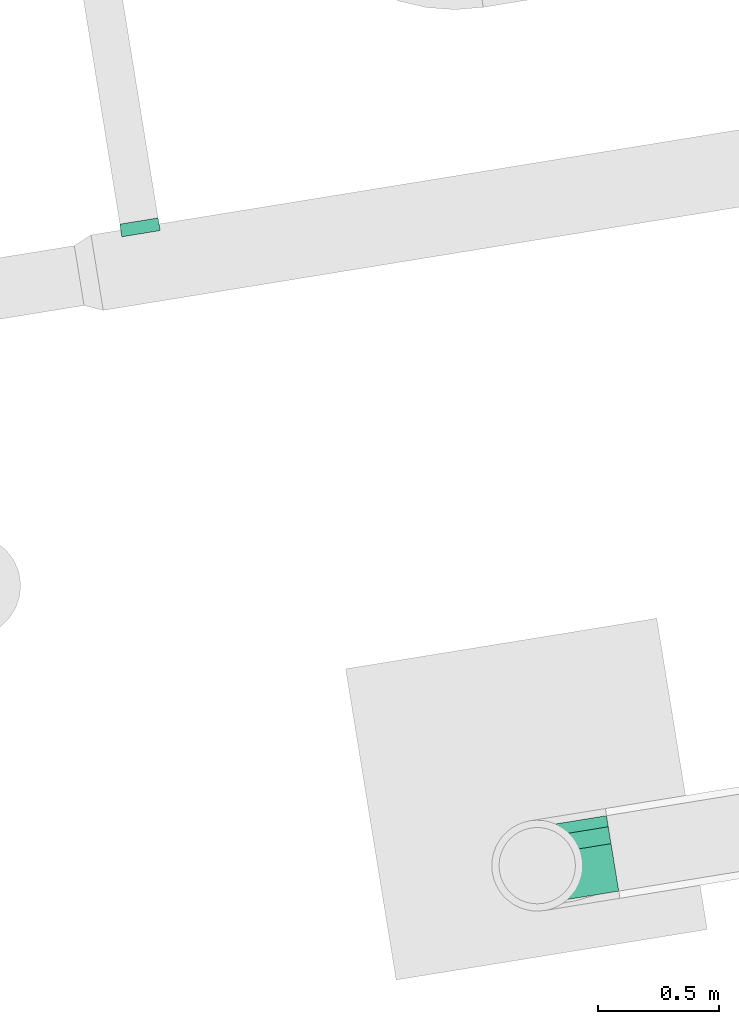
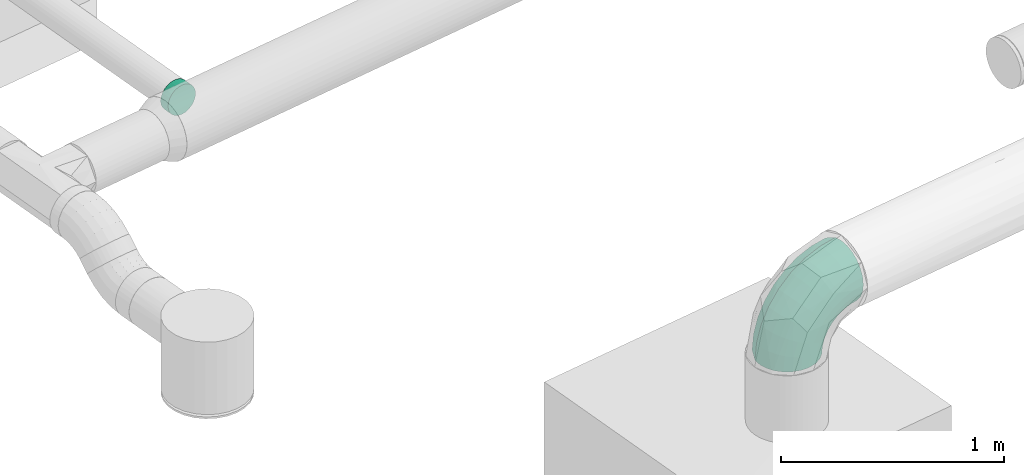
# One storey, part 28 of 39: 2 flow fittings.
"""IFC2X3 building model written with IfcOpenShell, lengths in millimetres."""

from ifc_helpers import new_model, entity, si_unit, converted_unit, derived_unit, direction, frame, origin, origin_with_axes, place, context, subcontext, project, spatial, faceted_brep, source, transform, mapped, material, type_object, element, save


model = new_model("IFC2X3")

# Units and contexts
model_context = context("Model", 3, precision=0.01, world=origin(), true_north=direction((6.12323399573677e-17, 1.0)))
plan_context = context("Plan", 3, precision=1e-05, world=origin_with_axes())
body_context = subcontext(model_context, "Body", "Model", "MODEL_VIEW")
ifc_project = project(units=[converted_unit("PLANEANGLEUNIT", "DEGREE", entity("IfcPositiveLengthMeasure", 0.0174532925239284), si_unit("PLANEANGLEUNIT", "RADIAN"), dimensions=[0, 0, 0, 0, 0, 0, 0]), si_unit("AREAUNIT", "SQUARE_METRE"), si_unit("LENGTHUNIT", "METRE", prefix="MILLI"), si_unit("MASSUNIT", "GRAM", prefix="KILO"), si_unit("POWERUNIT", "WATT"), si_unit("PRESSUREUNIT", "PASCAL", prefix="KILO"), si_unit("FORCEUNIT", "NEWTON", prefix="KILO"), si_unit("ELECTRICVOLTAGEUNIT", "VOLT"), si_unit("ELECTRICCURRENTUNIT", "AMPERE"), si_unit("THERMODYNAMICTEMPERATUREUNIT", "DEGREE_CELSIUS"), si_unit("TIMEUNIT", "SECOND"), si_unit("VOLUMEUNIT", "CUBIC_METRE"), derived_unit("LINEARVELOCITYUNIT", [(si_unit("LENGTHUNIT", "METRE"), 1), (si_unit("TIMEUNIT", "SECOND"), -1)]), derived_unit("VOLUMETRICFLOWRATEUNIT", [(si_unit("VOLUMEUNIT", "CUBIC_METRE"), 1), (si_unit("TIMEUNIT", "SECOND"), -1)]), derived_unit("THERMALTRANSMITTANCEUNIT", [(si_unit("POWERUNIT", "WATT"), 1), (si_unit("THERMODYNAMICTEMPERATUREUNIT", "KELVIN"), -1), (si_unit("AREAUNIT", "SQUARE_METRE"), -1)]), derived_unit("SOUNDPRESSUREUNIT", [(si_unit("PRESSUREUNIT", "PASCAL"), 1)])], contexts=[model_context, plan_context])

# Site, building, storey
site_placement = place(None, frame((-0.00071070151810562, 0.00438415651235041, 0.0), z_axis=(0.0, 0.0, 1.0), x_axis=(-0.160236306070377, 0.987078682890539, 0.0)))
site = spatial("IfcSite", under=ifc_project, at=site_placement, Name="Default", CompositionType="ELEMENT")
building_placement = place(site_placement, origin_with_axes())
building = spatial("IfcBuilding", under=site, at=building_placement, CompositionType="ELEMENT")
storey_placement = place(building_placement, frame((0.0, 0.0, 50999.9999999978), z_axis=(0.0, 0.0, 1.0), x_axis=(1.0, 0.0, 0.0)))
storey = spatial("IfcBuildingStorey", under=building, at=storey_placement, Name="Nivå D", CompositionType="ELEMENT", Elevation=50999.9999999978)

# Flow fittings
ifc_material = material(Name="<Unnamed>")
duct_fitting_type_1 = type_object("IfcDuctFittingType", Name="magicirc_elbow_full_radius_1:magicirc_elbow_full_radius_001", PredefinedType="NOTDEFINED", material=ifc_material)
shared_shape_1 = source(origin(), body_context, "Body", "Brep", [
    faceted_brep([(-222.819822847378, -148.421044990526, 0.0), (-223.866810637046, -143.157481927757, 40.7639996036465), (-315.0, -152.133317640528, 40.7639996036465), (-315.0, -157.5, 0.0), (-226.936423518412, -127.725495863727, 78.7499999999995), (-315.0, -136.399001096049, 78.7499999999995), (-231.819472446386, -103.176751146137, 111.369318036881), (-315.0, -111.369318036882, 111.369318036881), (-238.183185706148, -71.1842041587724, 136.399001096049), (-315.0, -78.7500000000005, 136.399001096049), (-245.593886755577, -33.9280941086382, 152.133317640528), (-315.0, -40.7639996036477, 152.133317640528), (-253.546548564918, 6.0526366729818, 157.5), (-315.0, 0.0, 157.5), (-261.499210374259, 46.033367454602, 152.133317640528), (-315.0, 40.7639996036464, 152.133317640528), (-268.909911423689, 83.2894775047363, 136.399001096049), (-315.0, 78.7499999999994, 136.399001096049), (-275.27362468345, 115.282024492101, 111.369318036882), (-315.0, 111.369318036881, 111.369318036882), (-283.226286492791, 155.262755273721, 40.7639996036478), (-315.0, 152.133317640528, 40.7639996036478), (-284.273274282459, 160.526318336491, 0.0), (-315.0, 157.5, 0.0), (-283.226286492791, 155.262755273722, -40.763999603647), (-315.0, 152.133317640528, -40.763999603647), (-280.156673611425, 139.830769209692, -78.7499999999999), (-315.0, 136.399001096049, -78.7499999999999), (-275.27362468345, 115.282024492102, -111.369318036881), (-315.0, 111.369318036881, -111.369318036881), (-268.909911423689, 83.289477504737, -136.399001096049), (-315.0, 78.7500000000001, -136.399001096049), (-261.499210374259, 46.0333674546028, -152.133317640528), (-315.0, 40.7639996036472, -152.133317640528), (-253.546548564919, 6.05263667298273, -157.5), (-315.0, 0.0, -157.5), (-245.593886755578, -33.9280941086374, -152.133317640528), (-315.0, -40.7639996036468, -152.133317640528), (-238.183185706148, -71.1842041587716, -136.399001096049), (-315.0, -78.7499999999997, -136.399001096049), (-231.819472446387, -103.176751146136, -111.369318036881), (-315.0, -111.369318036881, -111.369318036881), (-223.866810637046, -143.157481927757, -40.7639996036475), (-315.0, -152.133317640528, -40.7639996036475), (-134.182078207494, -121.533079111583, 0.0), (-136.235818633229, -116.574911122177, 40.7639996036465), (-142.25708089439, -102.03829810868, 78.7499999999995), (-151.835525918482, -78.91388622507, 111.369318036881), (-164.318398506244, -48.7775659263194, 136.399001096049), (-178.855011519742, -13.6830776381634, 152.133317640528), (-194.454718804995, 23.9779472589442, 157.5), (-210.054426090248, 61.638972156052, 152.133317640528), (-224.591039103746, 96.7334604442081, 136.399001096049), (-237.073911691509, 126.869780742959, 111.369318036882), (-252.673618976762, 164.530805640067, 40.7639996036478), (-254.727359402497, 169.488973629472, 0.0), (-252.673618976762, 164.530805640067, -40.763999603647), (-246.652356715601, 149.994192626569, -78.7499999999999), (-237.073911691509, 126.86978074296, -111.369318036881), (-224.591039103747, 96.7334604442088, -136.399001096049), (-210.054426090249, 61.6389721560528, -152.133317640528), (-194.454718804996, 23.9779472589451, -157.5), (-178.855011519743, -13.6830776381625, -152.133317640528), (-164.318398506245, -48.7775659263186, -136.399001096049), (-151.835525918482, -78.9138862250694, -111.369318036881), (-136.23581863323, -116.574911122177, -40.7639996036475), (-52.4930648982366, -77.8693918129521, 0.0), (-55.4746338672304, -73.4071585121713, 40.7639996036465), (-64.2161517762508, -60.3245524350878, 78.7499999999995), (-78.1218986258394, -39.5131315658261, 111.369318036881), (-96.24422074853, -12.3911598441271, 136.399001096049), (-117.348111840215, 19.1930451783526, 152.133317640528), (-139.995376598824, 53.087072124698, 157.5), (-162.642641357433, 86.9810990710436, 152.133317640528), (-183.746532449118, 118.565304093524, 136.399001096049), (-201.868854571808, 145.687275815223, 111.369318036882), (-224.516119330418, 179.581302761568, 40.7639996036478), (-227.497688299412, 184.043536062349, 0.0), (-224.516119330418, 179.581302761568, -40.763999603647), (-215.774601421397, 166.498696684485, -78.7499999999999), (-201.868854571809, 145.687275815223, -111.369318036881), (-183.746532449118, 118.565304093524, -136.399001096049), (-162.642641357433, 86.9810990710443, -152.133317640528), (-139.995376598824, 53.0870721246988, -157.5), (-117.348111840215, 19.1930451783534, -152.133317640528), (-96.2442207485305, -12.3911598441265, -136.399001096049), (-78.1218986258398, -39.5131315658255, -111.369318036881), (-55.4746338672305, -73.4071585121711, -40.7639996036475), (19.1079541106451, -19.107954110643, 0.0), (15.3131366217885, -15.3131366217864, 40.7639996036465), (4.18729469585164, -4.18729469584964, 78.7499999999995), (-13.5113639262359, 13.5113639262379, 111.369318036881), (-36.5767049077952, 36.5767049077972, 136.399001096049), (-63.4368633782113, 63.4368633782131, 152.133317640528), (-92.2613639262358, 92.2613639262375, 157.5), (-121.085864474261, 121.085864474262, 152.133317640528), (-147.946022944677, 147.946022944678, 136.399001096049), (-171.011363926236, 171.011363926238, 111.369318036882), (-199.835864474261, 199.835864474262, 40.7639996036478), (-203.630681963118, 203.630681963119, 0.0), (-199.835864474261, 199.835864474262, -40.763999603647), (-188.710022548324, 188.710022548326, -78.7499999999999), (-171.011363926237, 171.011363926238, -111.369318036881), (-147.946022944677, 147.946022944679, -136.399001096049), (-121.085864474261, 121.085864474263, -152.133317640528), (-92.2613639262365, 92.2613639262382, -157.5), (-63.436863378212, 63.4368633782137, -152.133317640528), (-36.5767049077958, 36.5767049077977, -136.399001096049), (-13.5113639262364, 13.5113639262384, -111.369318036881), (15.3131366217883, -15.3131366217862, -40.7639996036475), (77.8693918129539, 52.4930648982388, 0.0), (73.4071585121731, 55.4746338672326, 40.7639996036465), (60.3245524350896, 64.216151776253, 78.7499999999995), (39.5131315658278, 78.1218986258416, 111.369318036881), (12.3911598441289, 96.2442207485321, 136.399001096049), (-19.1930451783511, 117.348111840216, 152.133317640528), (-53.0870721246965, 139.995376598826, 157.5), (-86.9810990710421, 162.642641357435, 152.133317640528), (-118.565304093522, 183.746532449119, 136.399001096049), (-145.687275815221, 201.86885457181, 111.369318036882), (-179.581302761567, 224.516119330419, 40.7639996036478), (-184.043536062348, 227.497688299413, 0.0), (-179.581302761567, 224.516119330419, -40.763999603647), (-166.498696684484, 215.774601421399, -78.7499999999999), (-145.687275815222, 201.86885457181, -111.369318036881), (-118.565304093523, 183.74653244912, -136.399001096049), (-86.9810990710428, 162.642641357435, -152.133317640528), (-53.0870721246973, 139.995376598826, -157.5), (-19.1930451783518, 117.348111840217, -152.133317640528), (12.3911598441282, 96.2442207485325, -136.399001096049), (39.5131315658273, 78.1218986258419, -111.369318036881), (73.4071585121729, 55.4746338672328, -40.7639996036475), (121.533079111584, 134.182078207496, 0.0), (116.574911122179, 136.235818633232, 40.7639996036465), (102.038298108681, 142.257080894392, 78.7499999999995), (78.9138862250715, 151.835525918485, 111.369318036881), (48.7775659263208, 164.318398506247, 136.399001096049), (13.6830776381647, 178.855011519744, 152.133317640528), (-23.9779472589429, 194.454718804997, 157.5), (-61.6389721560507, 210.05442609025, 152.133317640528), (-96.7334604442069, 224.591039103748, 136.399001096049), (-126.869780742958, 237.07391169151, 111.369318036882), (-164.530805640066, 252.673618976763, 40.7639996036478), (-169.488973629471, 254.727359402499, 0.0), (-164.530805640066, 252.673618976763, -40.763999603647), (-149.994192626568, 246.652356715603, -78.7499999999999), (-126.869780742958, 237.07391169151, -111.369318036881), (-96.7334604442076, 224.591039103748, -136.399001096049), (-61.6389721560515, 210.05442609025, -152.133317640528), (-23.9779472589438, 194.454718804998, -157.5), (13.6830776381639, 178.855011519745, -152.133317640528), (48.7775659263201, 164.318398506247, -136.399001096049), (78.9138862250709, 151.835525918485, -111.369318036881), (116.574911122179, 136.235818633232, -40.7639996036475), (148.421044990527, 222.81982284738, 0.0), (143.157481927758, 223.866810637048, 40.7639996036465), (127.725495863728, 226.936423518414, 78.7499999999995), (103.176751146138, 231.819472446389, 111.369318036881), (71.1842041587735, 238.18318570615, 136.399001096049), (33.9280941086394, 245.59388675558, 152.133317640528), (-6.05263667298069, 253.54654856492, 157.5), (-46.0333674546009, 261.499210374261, 152.133317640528), (-83.2894775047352, 268.90991142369, 136.399001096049), (-115.2820244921, 275.273624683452, 111.369318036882), (-155.26275527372, 283.226286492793, 40.7639996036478), (-160.52631833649, 284.27327428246, 0.0), (-155.262755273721, 283.226286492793, -40.763999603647), (-139.83076920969, 280.156673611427, -78.7499999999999), (-115.282024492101, 275.273624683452, -111.369318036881), (-83.2894775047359, 268.90991142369, -136.399001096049), (-46.0333674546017, 261.499210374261, -152.133317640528), (-6.05263667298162, 253.54654856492, -157.5), (33.9280941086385, 245.59388675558, -152.133317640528), (71.1842041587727, 238.183185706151, -136.399001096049), (103.176751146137, 231.819472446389, -111.369318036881), (143.157481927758, 223.866810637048, -40.7639996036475), (157.500000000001, 315.0, 0.0), (152.133317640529, 315.0, 40.7639996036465), (136.39900109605, 315.0, 78.7499999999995), (111.369318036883, 315.0, 111.369318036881), (78.7500000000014, 315.0, 136.399001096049), (40.7639996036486, 315.0, 152.133317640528), (0.0, 315.0, 157.5), (-40.7639996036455, 315.0, 152.133317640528), (-78.7499999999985, 315.0, 136.399001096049), (-111.36931803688, 315.0, 111.369318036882), (-152.133317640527, 315.0, 40.7639996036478), (-157.499999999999, 315.0, 0.0), (-152.133317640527, 315.0, -40.763999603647), (-136.399001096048, 315.0, -78.7499999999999), (-111.36931803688, 315.0, -111.369318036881), (-78.7499999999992, 315.0, -136.399001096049), (-40.7639996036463, 315.0, -152.133317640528), (0.0, 315.0, -157.5), (40.7639996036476, 315.0, -152.133317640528), (78.7500000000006, 315.0, -136.399001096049), (111.369318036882, 315.0, -111.369318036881), (152.133317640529, 315.0, -40.7639996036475)], [[[0, 1, 2, 3]], [[1, 4, 5, 2]], [[4, 6, 7, 5]], [[6, 8, 9, 7]], [[8, 10, 11, 9]], [[10, 12, 13, 11]], [[12, 14, 15, 13]], [[14, 16, 17, 15]], [[16, 18, 19, 17]], [[18, 20, 21, 19]], [[20, 22, 23, 21]], [[22, 24, 25, 23]], [[24, 26, 27, 25]], [[26, 28, 29, 27]], [[28, 30, 31, 29]], [[30, 32, 33, 31]], [[32, 34, 35, 33]], [[34, 36, 37, 35]], [[36, 38, 39, 37]], [[38, 40, 41, 39]], [[40, 42, 43, 41]], [[42, 0, 3, 43]], [[44, 45, 1, 0]], [[45, 46, 4, 1]], [[46, 47, 6, 4]], [[47, 48, 8, 6]], [[48, 49, 10, 8]], [[49, 50, 12, 10]], [[50, 51, 14, 12]], [[51, 52, 16, 14]], [[52, 53, 18, 16]], [[53, 54, 20, 18]], [[54, 55, 22, 20]], [[55, 56, 24, 22]], [[56, 57, 26, 24]], [[57, 58, 28, 26]], [[58, 59, 30, 28]], [[59, 60, 32, 30]], [[60, 61, 34, 32]], [[61, 62, 36, 34]], [[62, 63, 38, 36]], [[63, 64, 40, 38]], [[64, 65, 42, 40]], [[65, 44, 0, 42]], [[66, 67, 45, 44]], [[67, 68, 46, 45]], [[68, 69, 47, 46]], [[69, 70, 48, 47]], [[70, 71, 49, 48]], [[71, 72, 50, 49]], [[72, 73, 51, 50]], [[73, 74, 52, 51]], [[74, 75, 53, 52]], [[75, 76, 54, 53]], [[76, 77, 55, 54]], [[77, 78, 56, 55]], [[78, 79, 57, 56]], [[79, 80, 58, 57]], [[80, 81, 59, 58]], [[81, 82, 60, 59]], [[82, 83, 61, 60]], [[83, 84, 62, 61]], [[84, 85, 63, 62]], [[85, 86, 64, 63]], [[86, 87, 65, 64]], [[87, 66, 44, 65]], [[88, 89, 67, 66]], [[89, 90, 68, 67]], [[90, 91, 69, 68]], [[91, 92, 70, 69]], [[92, 93, 71, 70]], [[93, 94, 72, 71]], [[94, 95, 73, 72]], [[95, 96, 74, 73]], [[96, 97, 75, 74]], [[97, 98, 76, 75]], [[98, 99, 77, 76]], [[99, 100, 78, 77]], [[100, 101, 79, 78]], [[101, 102, 80, 79]], [[102, 103, 81, 80]], [[103, 104, 82, 81]], [[104, 105, 83, 82]], [[105, 106, 84, 83]], [[106, 107, 85, 84]], [[107, 108, 86, 85]], [[108, 109, 87, 86]], [[109, 88, 66, 87]], [[110, 111, 89, 88]], [[111, 112, 90, 89]], [[112, 113, 91, 90]], [[113, 114, 92, 91]], [[114, 115, 93, 92]], [[115, 116, 94, 93]], [[116, 117, 95, 94]], [[117, 118, 96, 95]], [[118, 119, 97, 96]], [[119, 120, 98, 97]], [[120, 121, 99, 98]], [[121, 122, 100, 99]], [[122, 123, 101, 100]], [[123, 124, 102, 101]], [[124, 125, 103, 102]], [[125, 126, 104, 103]], [[126, 127, 105, 104]], [[127, 128, 106, 105]], [[128, 129, 107, 106]], [[129, 130, 108, 107]], [[130, 131, 109, 108]], [[131, 110, 88, 109]], [[132, 133, 111, 110]], [[133, 134, 112, 111]], [[134, 135, 113, 112]], [[135, 136, 114, 113]], [[136, 137, 115, 114]], [[137, 138, 116, 115]], [[138, 139, 117, 116]], [[139, 140, 118, 117]], [[140, 141, 119, 118]], [[141, 142, 120, 119]], [[142, 143, 121, 120]], [[143, 144, 122, 121]], [[144, 145, 123, 122]], [[145, 146, 124, 123]], [[146, 147, 125, 124]], [[147, 148, 126, 125]], [[148, 149, 127, 126]], [[149, 150, 128, 127]], [[150, 151, 129, 128]], [[151, 152, 130, 129]], [[152, 153, 131, 130]], [[153, 132, 110, 131]], [[154, 155, 133, 132]], [[155, 156, 134, 133]], [[156, 157, 135, 134]], [[157, 158, 136, 135]], [[158, 159, 137, 136]], [[159, 160, 138, 137]], [[160, 161, 139, 138]], [[161, 162, 140, 139]], [[162, 163, 141, 140]], [[163, 164, 142, 141]], [[164, 165, 143, 142]], [[165, 166, 144, 143]], [[166, 167, 145, 144]], [[167, 168, 146, 145]], [[168, 169, 147, 146]], [[169, 170, 148, 147]], [[170, 171, 149, 148]], [[171, 172, 150, 149]], [[172, 173, 151, 150]], [[173, 174, 152, 151]], [[174, 175, 153, 152]], [[175, 154, 132, 153]], [[176, 177, 155, 154]], [[177, 178, 156, 155]], [[178, 179, 157, 156]], [[179, 180, 158, 157]], [[180, 181, 159, 158]], [[181, 182, 160, 159]], [[182, 183, 161, 160]], [[183, 184, 162, 161]], [[184, 185, 163, 162]], [[185, 186, 164, 163]], [[186, 187, 165, 164]], [[187, 188, 166, 165]], [[188, 189, 167, 166]], [[189, 190, 168, 167]], [[190, 191, 169, 168]], [[191, 192, 170, 169]], [[192, 193, 171, 170]], [[193, 194, 172, 171]], [[194, 195, 173, 172]], [[195, 196, 174, 173]], [[196, 197, 175, 174]], [[197, 176, 154, 175]], [[3, 2, 5, 7, 9, 11, 13, 15, 17, 19, 21, 23, 25, 27, 29, 31, 33, 35, 37, 39, 41, 43]], [[197, 196, 195, 194, 193, 192, 191, 190, 189, 188, 187, 186, 185, 184, 183, 182, 181, 180, 179, 178, 177, 176]]]),
])
flow_fitting_1_placement = place(storey_placement, frame((769234.832653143, -595189.746741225, 3250.0), z_axis=(-1.0, 0.0, 0.0), x_axis=(0.0, 1.0, 0.0)))
element("IfcFlowFitting", 1, at=flow_fitting_1_placement, inside=storey, type_object=duct_fitting_type_1, material=ifc_material, Name="magicirc_elbow_full_radius_1:magicirc_elbow_full_radius_001", ObjectType="magicirc_elbow_full_radius_1:magicirc_elbow_full_radius_001", context=body_context, shape_type="MappedRepresentation", body=[
    mapped(shared_shape_1, transform((0.0, 0.0, 0.0), scale=1.0)),
])
duct_fitting_type_2 = type_object("IfcDuctFittingType", Name="magicirc_tapoutlet_1:magicirc_tapoutlet_001", PredefinedType="NOTDEFINED", material=ifc_material)
shared_shape_2 = source(origin(), body_context, "Body", "Brep", [
    faceted_brep([(-27.9263644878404, -80.0, 0.0), (-27.9263644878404, -77.2740661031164, 20.7055236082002), (-27.9263644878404, -69.282032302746, 40.0), (-27.9263644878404, -56.5685424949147, 56.568542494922), (-27.9263644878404, -40.0, 69.2820323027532), (-27.9263644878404, -20.7055236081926, 77.2740661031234), (-27.9263644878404, 0.0, 80.0), (-27.9263644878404, 20.7055236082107, 77.2740661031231), (-27.9263644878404, 40.0, 69.2820323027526), (-27.9263644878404, 56.5685424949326, 56.5685424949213), (-27.9263644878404, 69.2820323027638, 40.0), (-27.9263644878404, 77.274066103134, 20.705523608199), (-27.9263644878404, 80.0, 0.0), (-27.9263644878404, 77.2740661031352, -20.7055236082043), (-27.9263644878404, 69.2820323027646, -40.0), (-27.9263644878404, 56.5685424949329, -56.5685424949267), (-27.9263644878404, 40.0, -69.2820323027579), (-27.9263644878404, 20.7055236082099, -77.274066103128), (-27.9263644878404, 0.0, -80.0), (-27.9263644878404, -20.7055236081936, -77.2740661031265), (-27.9263644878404, -40.0, -69.2820323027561), (-27.9263644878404, -56.5685424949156, -56.5685424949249), (-27.9263644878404, -69.2820323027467, -40.0), (-27.9263644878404, -77.2740661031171, -20.7055236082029), (0.0, -20.7055236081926, 77.2740661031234), (25.0, -20.7055236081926, 77.2740661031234), (25.0, 0.0, 80.0), (0.0, 0.0, 80.0), (0.0, -40.0, 69.2820323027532), (25.0, -40.0, 69.2820323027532), (0.0, -56.5685424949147, 56.568542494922), (25.0, -56.5685424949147, 56.568542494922), (0.0, -77.2740661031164, 20.7055236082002), (25.0, -77.2740661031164, 20.7055236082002), (25.0, -69.282032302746, 40.0), (0.0, -69.282032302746, 40.0), (0.0, -80.0, 0.0), (25.0, -80.0, 0.0), (0.0, -77.2740661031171, -20.7055236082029), (25.0, -77.2740661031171, -20.7055236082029), (0.0, -69.2820323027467, -40.0), (25.0, -69.2820323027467, -40.0), (0.0, -56.5685424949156, -56.5685424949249), (25.0, -56.5685424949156, -56.5685424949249), (0.0, 0.0, -80.0), (25.0, 0.0, -80.0), (25.0, -20.7055236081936, -77.2740661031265), (0.0, -20.7055236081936, -77.2740661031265), (25.0, -40.0, -69.2820323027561), (0.0, -40.0, -69.2820323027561), (0.0, 20.7055236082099, -77.274066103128), (25.0, 20.7055236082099, -77.274066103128), (0.0, 40.0, -69.2820323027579), (25.0, 40.0, -69.2820323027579), (0.0, 56.5685424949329, -56.5685424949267), (25.0, 56.5685424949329, -56.5685424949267), (0.0, 77.2740661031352, -20.7055236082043), (25.0, 77.2740661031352, -20.7055236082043), (25.0, 69.2820323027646, -40.0), (0.0, 69.2820323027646, -40.0), (0.0, 80.0, 0.0), (25.0, 80.0, 0.0), (0.0, 77.274066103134, 20.705523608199), (25.0, 77.274066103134, 20.705523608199), (0.0, 69.2820323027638, 40.0), (25.0, 69.2820323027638, 40.0), (0.0, 56.5685424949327, 56.5685424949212), (25.0, 56.5685424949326, 56.5685424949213), (0.0, 20.7055236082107, 77.2740661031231), (25.0, 20.7055236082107, 77.2740661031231), (25.0, 40.0, 69.2820323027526), (0.0, 40.0, 69.2820323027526)], [[[0, 1, 2, 3, 4, 5, 6, 7, 8, 9, 10, 11, 12, 13, 14, 15, 16, 17, 18, 19, 20, 21, 22, 23]], [[24, 25, 26, 27, 6, 5]], [[28, 29, 25, 24, 5, 4]], [[3, 30, 31, 29, 28, 4]], [[32, 33, 34, 35, 2, 1]], [[36, 37, 33, 32, 1, 0]], [[2, 35, 34, 31, 30, 3]], [[38, 39, 37, 36, 0, 23]], [[40, 41, 39, 38, 23, 22]], [[21, 42, 43, 41, 40, 22]], [[18, 44, 45, 46, 47, 19]], [[20, 19, 47, 46, 48, 49]], [[20, 49, 48, 43, 42, 21]], [[50, 51, 45, 44, 18, 17]], [[52, 53, 51, 50, 17, 16]], [[15, 54, 55, 53, 52, 16]], [[56, 57, 58, 59, 14, 13]], [[60, 61, 57, 56, 13, 12]], [[14, 59, 58, 55, 54, 15]], [[62, 63, 61, 60, 12, 11]], [[64, 65, 63, 62, 11, 10]], [[9, 66, 67, 65, 64, 10]], [[68, 69, 70, 71, 8, 7]], [[27, 26, 69, 68, 7, 6]], [[8, 71, 70, 67, 66, 9]], [[45, 51, 53, 55, 58, 57, 61, 63, 65, 67, 70, 69, 26, 25, 29, 31, 34, 33, 37, 39, 41, 43, 48, 46]]]),
    faceted_brep([(25.0, 0.0, -80.0), (25.0, 20.70552360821, -77.274066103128), (25.0, 40.0, -69.2820323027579), (25.0, 56.568542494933, -56.5685424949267), (25.0, 69.2820323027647, -40.0), (25.0, 77.2740661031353, -20.7055236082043), (25.0, 80.0, 0.0), (25.0, 77.2740661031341, 20.705523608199), (25.0, 69.2820323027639, 40.0), (25.0, 56.5685424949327, 56.5685424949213), (25.0, 40.0, 69.2820323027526), (25.0, 20.7055236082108, 77.2740661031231), (25.0, 0.0, 80.0), (25.0, -20.7055236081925, 77.2740661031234), (25.0, -40.0, 69.2820323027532), (25.0, -56.5685424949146, 56.568542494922), (25.0, -69.2820323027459, 40.0), (25.0, -77.2740661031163, 20.7055236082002), (25.0, -80.0, 0.0), (25.0, -77.274066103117, -20.7055236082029), (25.0, -69.2820323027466, -40.0), (25.0, -56.5685424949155, -56.5685424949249), (25.0, -40.0, -69.2820323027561), (25.0, -20.7055236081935, -77.2740661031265), (0.0, 0.0, 80.0), (-27.9263644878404, 0.0, 80.0), (-27.9263644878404, -20.7055236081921, 77.2740661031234), (0.0, -20.7055236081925, 77.2740661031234), (-27.9263644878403, -40.0, 69.2820323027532), (0.0, -40.0, 69.2820323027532), (0.0, -56.5685424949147, 56.568542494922), (-27.9263644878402, -56.5685424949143, 56.568542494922), (0.0, -69.282032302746, 40.0), (-27.9263644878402, -69.2820323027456, 40.0), (-27.9263644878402, -77.274066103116, 20.7055236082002), (0.0, -77.2740661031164, 20.7055236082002), (-27.9263644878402, -80.0, 0.0), (0.0, -80.0, 0.0), (-27.9263644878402, -77.2740661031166, -20.7055236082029), (0.0, -77.274066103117, -20.7055236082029), (-27.9263644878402, -69.2820323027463, -40.0), (0.0, -69.2820323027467, -40.0), (0.0, -56.5685424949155, -56.5685424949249), (-27.9263644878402, -56.5685424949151, -56.5685424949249), (0.0, 0.0, -80.0), (0.0, -20.7055236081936, -77.2740661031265), (-27.9263644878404, -20.7055236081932, -77.2740661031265), (-27.9263644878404, 0.0, -80.0), (0.0, -40.0, -69.2820323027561), (-27.9263644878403, -40.0, -69.2820323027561), (-27.9263644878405, 20.7055236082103, -77.274066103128), (0.0, 20.7055236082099, -77.274066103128), (-27.9263644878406, 40.0, -69.2820323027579), (0.0, 40.0, -69.2820323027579), (0.0, 56.5685424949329, -56.5685424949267), (-27.9263644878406, 56.5685424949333, -56.5685424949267), (0.0, 69.2820323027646, -40.0), (-27.9263644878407, 69.282032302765, -40.0), (-27.9263644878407, 77.2740661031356, -20.7055236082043), (0.0, 77.2740661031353, -20.7055236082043), (-27.9263644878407, 80.0, 0.0), (0.0, 80.0, 0.0), (-27.9263644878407, 77.2740661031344, 20.705523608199), (0.0, 77.274066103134, 20.705523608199), (-27.9263644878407, 69.2820323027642, 40.0), (0.0, 69.2820323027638, 40.0), (0.0, 56.5685424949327, 56.5685424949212), (-27.9263644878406, 56.568542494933, 56.5685424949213), (0.0, 40.0, 69.2820323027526), (-27.9263644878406, 40.0, 69.2820323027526), (-27.9263644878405, 20.7055236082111, 77.2740661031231), (0.0, 20.7055236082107, 77.2740661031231)], [[[0, 1, 2, 3, 4, 5, 6, 7, 8, 9, 10, 11, 12, 13, 14, 15, 16, 17, 18, 19, 20, 21, 22, 23]], [[13, 12, 24, 25, 26, 27]], [[14, 13, 27, 26, 28, 29]], [[30, 15, 14, 29, 28, 31]], [[17, 16, 32, 33, 34, 35]], [[18, 17, 35, 34, 36, 37]], [[32, 16, 15, 30, 31, 33]], [[19, 18, 37, 36, 38, 39]], [[20, 19, 39, 38, 40, 41]], [[42, 21, 20, 41, 40, 43]], [[44, 0, 23, 45, 46, 47]], [[48, 49, 46, 45, 23, 22]], [[48, 22, 21, 42, 43, 49]], [[1, 0, 44, 47, 50, 51]], [[2, 1, 51, 50, 52, 53]], [[54, 3, 2, 53, 52, 55]], [[5, 4, 56, 57, 58, 59]], [[6, 5, 59, 58, 60, 61]], [[56, 4, 3, 54, 55, 57]], [[7, 6, 61, 60, 62, 63]], [[8, 7, 63, 62, 64, 65]], [[66, 9, 8, 65, 64, 67]], [[11, 10, 68, 69, 70, 71]], [[12, 11, 71, 70, 25, 24]], [[68, 10, 9, 66, 67, 69]], [[36, 34, 33, 31, 28, 26, 25, 70, 69, 67, 64, 62, 60, 58, 57, 55, 52, 50, 47, 46, 49, 43, 40, 38]]]),
    faceted_brep([(-27.9263644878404, -80.0, 0.0), (-27.9263644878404, -77.2740661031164, 20.7055236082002), (-27.9263644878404, -69.282032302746, 40.0), (-27.9263644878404, -56.5685424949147, 56.568542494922), (-27.9263644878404, -40.0, 69.2820323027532), (-27.9263644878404, -20.7055236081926, 77.2740661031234), (-27.9263644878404, 0.0, 80.0), (-27.9263644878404, 20.7055236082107, 77.2740661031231), (-27.9263644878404, 40.0, 69.2820323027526), (-27.9263644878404, 56.5685424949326, 56.5685424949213), (-27.9263644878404, 69.2820323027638, 40.0), (-27.9263644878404, 77.274066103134, 20.705523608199), (-27.9263644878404, 80.0, 0.0), (-27.9263644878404, 77.2740661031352, -20.7055236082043), (-27.9263644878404, 69.2820323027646, -40.0), (-27.9263644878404, 56.5685424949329, -56.5685424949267), (-27.9263644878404, 40.0, -69.2820323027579), (-27.9263644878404, 20.7055236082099, -77.274066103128), (-27.9263644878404, 0.0, -80.0), (-27.9263644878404, -20.7055236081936, -77.2740661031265), (-27.9263644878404, -40.0, -69.2820323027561), (-27.9263644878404, -56.5685424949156, -56.5685424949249), (-27.9263644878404, -69.2820323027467, -40.0), (-27.9263644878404, -77.2740661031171, -20.7055236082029), (0.0, -20.7055236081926, 77.2740661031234), (25.0, -20.7055236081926, 77.2740661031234), (25.0, 0.0, 80.0), (0.0, 0.0, 80.0), (0.0, -40.0, 69.2820323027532), (25.0, -40.0, 69.2820323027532), (0.0, -56.5685424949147, 56.568542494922), (25.0, -56.5685424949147, 56.568542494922), (0.0, -77.2740661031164, 20.7055236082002), (25.0, -77.2740661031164, 20.7055236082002), (25.0, -69.282032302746, 40.0), (0.0, -69.282032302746, 40.0), (0.0, -80.0, 0.0), (25.0, -80.0, 0.0), (0.0, -77.2740661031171, -20.7055236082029), (25.0, -77.2740661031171, -20.7055236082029), (0.0, -69.2820323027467, -40.0), (25.0, -69.2820323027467, -40.0), (0.0, -56.5685424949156, -56.5685424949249), (25.0, -56.5685424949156, -56.5685424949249), (0.0, 0.0, -80.0), (25.0, 0.0, -80.0), (25.0, -20.7055236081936, -77.2740661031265), (0.0, -20.7055236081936, -77.2740661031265), (25.0, -40.0, -69.2820323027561), (0.0, -40.0, -69.2820323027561), (0.0, 20.7055236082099, -77.274066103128), (25.0, 20.7055236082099, -77.274066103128), (0.0, 40.0, -69.2820323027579), (25.0, 40.0, -69.2820323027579), (0.0, 56.5685424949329, -56.5685424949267), (25.0, 56.5685424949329, -56.5685424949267), (0.0, 77.2740661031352, -20.7055236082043), (25.0, 77.2740661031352, -20.7055236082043), (25.0, 69.2820323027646, -40.0), (0.0, 69.2820323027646, -40.0), (0.0, 80.0, 0.0), (25.0, 80.0, 0.0), (0.0, 77.274066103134, 20.705523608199), (25.0, 77.274066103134, 20.705523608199), (0.0, 69.2820323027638, 40.0), (25.0, 69.2820323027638, 40.0), (0.0, 56.5685424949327, 56.5685424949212), (25.0, 56.5685424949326, 56.5685424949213), (0.0, 20.7055236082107, 77.2740661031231), (25.0, 20.7055236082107, 77.2740661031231), (25.0, 40.0, 69.2820323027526), (0.0, 40.0, 69.2820323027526)], [[[0, 1, 2, 3, 4, 5, 6, 7, 8, 9, 10, 11, 12, 13, 14, 15, 16, 17, 18, 19, 20, 21, 22, 23]], [[24, 25, 26, 27, 6, 5]], [[28, 29, 25, 24, 5, 4]], [[3, 30, 31, 29, 28, 4]], [[32, 33, 34, 35, 2, 1]], [[36, 37, 33, 32, 1, 0]], [[2, 35, 34, 31, 30, 3]], [[38, 39, 37, 36, 0, 23]], [[40, 41, 39, 38, 23, 22]], [[21, 42, 43, 41, 40, 22]], [[18, 44, 45, 46, 47, 19]], [[20, 19, 47, 46, 48, 49]], [[20, 49, 48, 43, 42, 21]], [[50, 51, 45, 44, 18, 17]], [[52, 53, 51, 50, 17, 16]], [[15, 54, 55, 53, 52, 16]], [[56, 57, 58, 59, 14, 13]], [[60, 61, 57, 56, 13, 12]], [[14, 59, 58, 55, 54, 15]], [[62, 63, 61, 60, 12, 11]], [[64, 65, 63, 62, 11, 10]], [[9, 66, 67, 65, 64, 10]], [[68, 69, 70, 71, 8, 7]], [[27, 26, 69, 68, 7, 6]], [[8, 71, 70, 67, 66, 9]], [[45, 51, 53, 55, 58, 57, 61, 63, 65, 67, 70, 69, 26, 25, 29, 31, 34, 33, 37, 39, 41, 43, 48, 46]]]),
])
flow_fitting_2_placement = place(storey_placement, frame((772096.97928963, -593994.407161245, 3310.0), z_axis=(0.0, 0.0, -1.0), x_axis=(1.0, 0.0, 0.0)))
element("IfcFlowFitting", 2, at=flow_fitting_2_placement, inside=storey, type_object=duct_fitting_type_2, material=ifc_material, Name="magicirc_tapoutlet_1:magicirc_tapoutlet_001", ObjectType="magicirc_tapoutlet_1:magicirc_tapoutlet_001", context=body_context, shape_type="MappedRepresentation", body=[
    mapped(shared_shape_2, transform((0.0, 0.0, 0.0), scale=1.0)),
])

save(model, "model.ifc")
